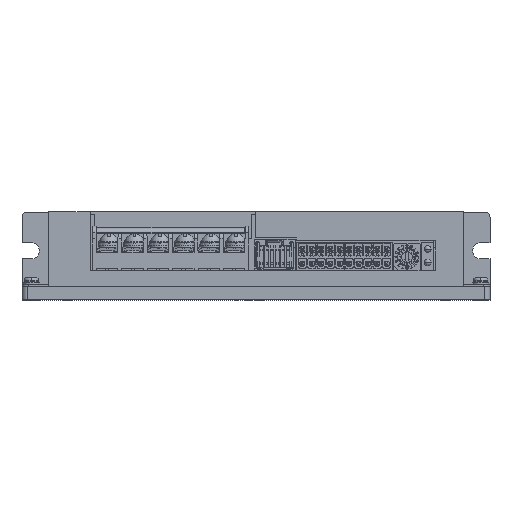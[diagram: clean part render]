
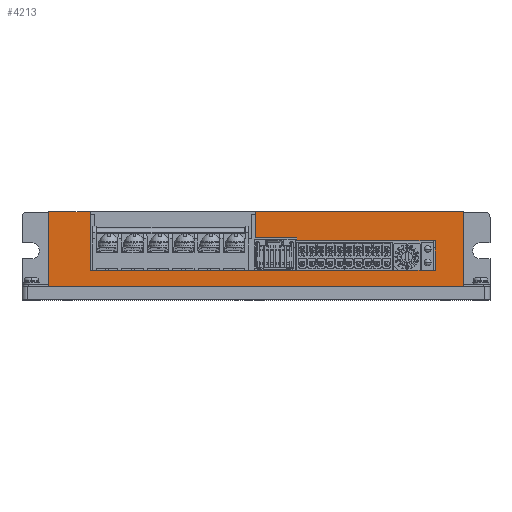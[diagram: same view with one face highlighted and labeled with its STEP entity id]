
A CAD part, top view. The second image highlights one B-rep face of the part: STEP entity #4213.
In plain terms, the highlighted planar face has unit normal (0, 0, 1).
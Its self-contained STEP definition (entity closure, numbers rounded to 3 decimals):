
#2077=DIRECTION('',(1.,0.,0.));
#2078=VECTOR('',#2077,155.);
#2079=CARTESIAN_POINT('',(10.,5.,100.5));
#2080=LINE('',#2079,#2078);
#2109=DIRECTION('',(-1.,0.,0.));
#2110=VECTOR('',#2109,128.978);
#2111=CARTESIAN_POINT('',(154.45,11.,100.5));
#2112=LINE('',#2111,#2110);
#2121=DIRECTION('',(0.,1.,0.));
#2122=VECTOR('',#2121,11.1);
#2123=CARTESIAN_POINT('',(154.45,11.,100.5));
#2124=LINE('',#2123,#2122);
#2125=DIRECTION('',(-1.,0.,0.));
#2126=VECTOR('',#2125,51.75);
#2127=CARTESIAN_POINT('',(154.45,22.1,100.5));
#2128=LINE('',#2127,#2126);
#2129=DIRECTION('',(0.,1.,0.));
#2130=VECTOR('',#2129,1.1);
#2131=CARTESIAN_POINT('',(102.7,22.1,100.5));
#2132=LINE('',#2131,#2130);
#2133=DIRECTION('',(-1.,0.,0.));
#2134=VECTOR('',#2133,15.528);
#2135=CARTESIAN_POINT('',(102.7,23.2,100.5));
#2136=LINE('',#2135,#2134);
#2137=DIRECTION('',(1.,0.,0.));
#2138=VECTOR('',#2137,77.828);
#2139=CARTESIAN_POINT('',(87.172,33.,100.5));
#2140=LINE('',#2139,#2138);
#2141=DIRECTION('',(0.,1.,0.));
#2142=VECTOR('',#2141,28.);
#2143=CARTESIAN_POINT('',(10.,5.,100.5));
#2144=LINE('',#2143,#2142);
#2145=DIRECTION('',(1.,0.,0.));
#2146=VECTOR('',#2145,15.472);
#2147=CARTESIAN_POINT('',(10.,33.,100.5));
#2148=LINE('',#2147,#2146);
#2149=DIRECTION('',(0.,-1.,0.));
#2150=VECTOR('',#2149,22.);
#2151=CARTESIAN_POINT('',(25.472,33.,100.5));
#2152=LINE('',#2151,#2150);
#2181=DIRECTION('',(0.,-1.,0.));
#2182=VECTOR('',#2181,9.8);
#2183=CARTESIAN_POINT('',(87.172,33.,100.5));
#2184=LINE('',#2183,#2182);
#2363=DIRECTION('',(0.,1.,0.));
#2364=VECTOR('',#2363,28.);
#2365=CARTESIAN_POINT('',(165.,5.,100.5));
#2366=LINE('',#2365,#2364);
#3625=CARTESIAN_POINT('',(10.,5.,100.5));
#3626=VERTEX_POINT('',#3625);
#3627=CARTESIAN_POINT('',(165.,5.,100.5));
#3628=VERTEX_POINT('',#3627);
#3641=CARTESIAN_POINT('',(154.45,11.,100.5));
#3642=VERTEX_POINT('',#3641);
#3643=CARTESIAN_POINT('',(25.472,11.,100.5));
#3644=VERTEX_POINT('',#3643);
#3645=CARTESIAN_POINT('',(154.45,22.1,100.5));
#3646=VERTEX_POINT('',#3645);
#3647=CARTESIAN_POINT('',(102.7,22.1,100.5));
#3648=VERTEX_POINT('',#3647);
#3649=CARTESIAN_POINT('',(102.7,23.2,100.5));
#3650=VERTEX_POINT('',#3649);
#3651=CARTESIAN_POINT('',(87.172,23.2,100.5));
#3652=VERTEX_POINT('',#3651);
#4037=CARTESIAN_POINT('',(87.172,33.,100.5));
#4038=VERTEX_POINT('',#4037);
#4039=CARTESIAN_POINT('',(165.,33.,100.5));
#4040=VERTEX_POINT('',#4039);
#4041=CARTESIAN_POINT('',(10.,33.,100.5));
#4042=VERTEX_POINT('',#4041);
#4043=CARTESIAN_POINT('',(25.472,33.,100.5));
#4044=VERTEX_POINT('',#4043);
#4185=CARTESIAN_POINT('',(10.,5.,100.5));
#4186=DIRECTION('',(0.,0.,1.));
#4187=DIRECTION('',(1.,0.,0.));
#4188=AXIS2_PLACEMENT_3D('',#4185,#4186,#4187);
#4189=PLANE('',#4188);
#4190=ORIENTED_EDGE('',*,*,#4164,.F.);
#4191=ORIENTED_EDGE('',*,*,#4176,.T.);
#4193=ORIENTED_EDGE('',*,*,#4192,.T.);
#4195=ORIENTED_EDGE('',*,*,#4194,.T.);
#4197=ORIENTED_EDGE('',*,*,#4196,.T.);
#4199=ORIENTED_EDGE('',*,*,#4198,.F.);
#4201=ORIENTED_EDGE('',*,*,#4200,.T.);
#4203=ORIENTED_EDGE('',*,*,#4202,.F.);
#4204=ORIENTED_EDGE('',*,*,#4118,.F.);
#4206=ORIENTED_EDGE('',*,*,#4205,.T.);
#4208=ORIENTED_EDGE('',*,*,#4207,.T.);
#4210=ORIENTED_EDGE('',*,*,#4209,.T.);
#4211=EDGE_LOOP('',(#4190,#4191,#4193,#4195,#4197,#4199,#4201,#4203,#4204,#4206,
#4208,#4210));
#4212=FACE_OUTER_BOUND('',#4211,.F.);
#4213=ADVANCED_FACE('',(#4212),#4189,.T.);
#4118=EDGE_CURVE('',#3626,#3628,#2080,.T.);
#4164=EDGE_CURVE('',#3642,#3644,#2112,.T.);
#4176=EDGE_CURVE('',#3642,#3646,#2124,.T.);
#4192=EDGE_CURVE('',#3646,#3648,#2128,.T.);
#4194=EDGE_CURVE('',#3648,#3650,#2132,.T.);
#4196=EDGE_CURVE('',#3650,#3652,#2136,.T.);
#4198=EDGE_CURVE('',#4038,#3652,#2184,.T.);
#4200=EDGE_CURVE('',#4038,#4040,#2140,.T.);
#4202=EDGE_CURVE('',#3628,#4040,#2366,.T.);
#4205=EDGE_CURVE('',#3626,#4042,#2144,.T.);
#4207=EDGE_CURVE('',#4042,#4044,#2148,.T.);
#4209=EDGE_CURVE('',#4044,#3644,#2152,.T.);
